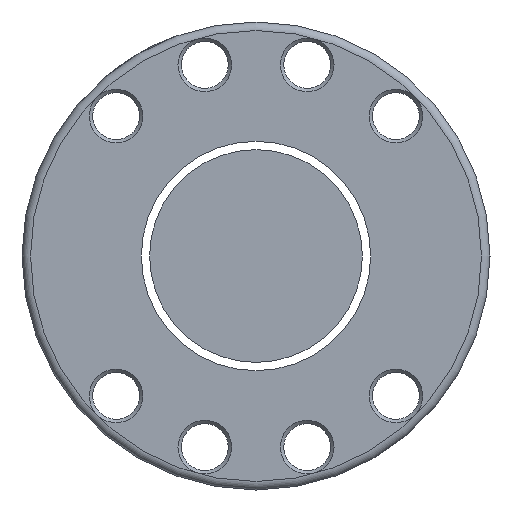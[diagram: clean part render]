
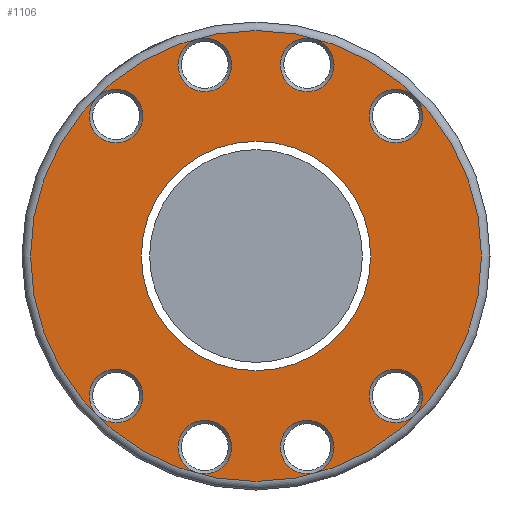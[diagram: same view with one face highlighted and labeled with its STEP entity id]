
A CAD part, left-side view. The second image highlights one B-rep face of the part: STEP entity #1106.
In plain terms, the highlighted planar face has unit normal (-1, 0, 0).
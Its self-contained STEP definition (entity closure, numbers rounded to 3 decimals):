
#16 = DIRECTION ( 'NONE',  ( 0., -1., 0. ) ) ;
#95 = AXIS2_PLACEMENT_3D ( 'NONE', #993, #2577, #727 ) ;
#178 = AXIS2_PLACEMENT_3D ( 'NONE', #2312, #297, #1455 ) ;
#190 = AXIS2_PLACEMENT_3D ( 'NONE', #2579, #1859, #568 ) ;
#216 = ORIENTED_EDGE ( 'NONE', *, *, #1748, .T. ) ;
#238 = CIRCLE ( 'NONE', #699, 53. ) ;
#250 = VERTEX_POINT ( 'NONE', #1343 ) ;
#297 = DIRECTION ( 'NONE',  ( 1., 0., 0. ) ) ;
#298 = DIRECTION ( 'NONE',  ( -1., 0., 0. ) ) ;
#311 = FACE_BOUND ( 'NONE', #1068, .T. ) ;
#312 = EDGE_CURVE ( 'NONE', #2460, #2460, #1440, .T. ) ;
#375 = AXIS2_PLACEMENT_3D ( 'NONE', #2419, #1043, #2402 ) ;
#506 = CIRCLE ( 'NONE', #696, 6.3 ) ;
#548 = CIRCLE ( 'NONE', #2208, 6.3 ) ;
#556 = FACE_BOUND ( 'NONE', #2775, .T. ) ;
#567 = ORIENTED_EDGE ( 'NONE', *, *, #773, .T. ) ;
#568 = DIRECTION ( 'NONE',  ( 0., -1., 0. ) ) ;
#572 = CARTESIAN_POINT ( 'NONE',  ( -138., 0., 0. ) ) ;
#601 = CARTESIAN_POINT ( 'NONE',  ( -138., 32.88, -32.88 ) ) ;
#607 = CIRCLE ( 'NONE', #190, 6.3 ) ;
#627 = VERTEX_POINT ( 'NONE', #1994 ) ;
#635 = DIRECTION ( 'NONE',  ( 1., 0., 0. ) ) ;
#643 = VERTEX_POINT ( 'NONE', #1540 ) ;
#657 = EDGE_CURVE ( 'NONE', #2012, #2012, #506, .T. ) ;
#665 = CARTESIAN_POINT ( 'NONE',  ( -138., -32.88, -32.88 ) ) ;
#696 = AXIS2_PLACEMENT_3D ( 'NONE', #601, #635, #1718 ) ;
#699 = AXIS2_PLACEMENT_3D ( 'NONE', #572, #2088, #2595 ) ;
#703 = AXIS2_PLACEMENT_3D ( 'NONE', #665, #2487, #16 ) ;
#716 = ORIENTED_EDGE ( 'NONE', *, *, #1138, .T. ) ;
#727 = DIRECTION ( 'NONE',  ( 0., 1., 0. ) ) ;
#736 = EDGE_LOOP ( 'NONE', ( #2301 ) ) ;
#773 = EDGE_CURVE ( 'NONE', #250, #250, #548, .T. ) ;
#790 = ORIENTED_EDGE ( 'NONE', *, *, #2084, .T. ) ;
#811 = FACE_BOUND ( 'NONE', #2785, .T. ) ;
#847 = CIRCLE ( 'NONE', #2264, 6.3 ) ;
#897 = CARTESIAN_POINT ( 'NONE',  ( -138., 26.58, -32.88 ) ) ;
#910 = VERTEX_POINT ( 'NONE', #1524 ) ;
#913 = DIRECTION ( 'NONE',  ( 0., -1., 0. ) ) ;
#935 = CIRCLE ( 'NONE', #375, 6.3 ) ;
#979 = CIRCLE ( 'NONE', #2623, 6.3 ) ;
#987 = EDGE_LOOP ( 'NONE', ( #716 ) ) ;
#993 = CARTESIAN_POINT ( 'NONE',  ( -138., 0., 0. ) ) ;
#1026 = CARTESIAN_POINT ( 'NONE',  ( -138., -12.035, -44.916 ) ) ;
#1043 = DIRECTION ( 'NONE',  ( 1., 0., 0. ) ) ;
#1068 = EDGE_LOOP ( 'NONE', ( #2224 ) ) ;
#1086 = CARTESIAN_POINT ( 'NONE',  ( -138., -39.18, 32.88 ) ) ;
#1106 = ADVANCED_FACE ( 'NONE', ( #2583, #2826, #1674, #811, #1232, #556, #2132, #1456, #2326, #311 ), #1704, .T. ) ;
#1138 = EDGE_CURVE ( 'NONE', #1790, #1790, #238, .T. ) ;
#1232 = FACE_BOUND ( 'NONE', #1307, .T. ) ;
#1261 = ORIENTED_EDGE ( 'NONE', *, *, #657, .T. ) ;
#1306 = CARTESIAN_POINT ( 'NONE',  ( -138., 5.735, 44.916 ) ) ;
#1307 = EDGE_LOOP ( 'NONE', ( #1706 ) ) ;
#1343 = CARTESIAN_POINT ( 'NONE',  ( -138., -18.335, -44.916 ) ) ;
#1430 = CARTESIAN_POINT ( 'NONE',  ( -138., -53., 0. ) ) ;
#1440 = CIRCLE ( 'NONE', #178, 6.3 ) ;
#1455 = DIRECTION ( 'NONE',  ( 0., -1., 0. ) ) ;
#1456 = FACE_BOUND ( 'NONE', #1759, .T. ) ;
#1524 = CARTESIAN_POINT ( 'NONE',  ( -138., 5.735, -44.916 ) ) ;
#1540 = CARTESIAN_POINT ( 'NONE',  ( -138., 26.95, 0. ) ) ;
#1558 = VERTEX_POINT ( 'NONE', #1086 ) ;
#1562 = DIRECTION ( 'NONE',  ( 1., 0., 0. ) ) ;
#1576 = DIRECTION ( 'NONE',  ( 1., 0., 0. ) ) ;
#1588 = CARTESIAN_POINT ( 'NONE',  ( -138., 12.035, 44.916 ) ) ;
#1604 = EDGE_CURVE ( 'NONE', #627, #627, #607, .T. ) ;
#1620 = EDGE_LOOP ( 'NONE', ( #567 ) ) ;
#1648 = ORIENTED_EDGE ( 'NONE', *, *, #2398, .T. ) ;
#1674 = FACE_BOUND ( 'NONE', #736, .T. ) ;
#1690 = DIRECTION ( 'NONE',  ( 0., -1., 0. ) ) ;
#1704 = PLANE ( 'NONE',  #2341 ) ;
#1706 = ORIENTED_EDGE ( 'NONE', *, *, #312, .T. ) ;
#1718 = DIRECTION ( 'NONE',  ( 0., -1., 0. ) ) ;
#1748 = EDGE_CURVE ( 'NONE', #2901, #2901, #979, .T. ) ;
#1759 = EDGE_LOOP ( 'NONE', ( #1261 ) ) ;
#1790 = VERTEX_POINT ( 'NONE', #1430 ) ;
#1851 = CARTESIAN_POINT ( 'NONE',  ( -138., -18.335, 44.916 ) ) ;
#1859 = DIRECTION ( 'NONE',  ( 1., 0., 0. ) ) ;
#1960 = CARTESIAN_POINT ( 'NONE',  ( -138., -39.18, -32.88 ) ) ;
#1988 = EDGE_LOOP ( 'NONE', ( #1648 ) ) ;
#1994 = CARTESIAN_POINT ( 'NONE',  ( -138., 26.58, 32.88 ) ) ;
#2012 = VERTEX_POINT ( 'NONE', #897 ) ;
#2084 = EDGE_CURVE ( 'NONE', #1558, #1558, #935, .T. ) ;
#2088 = DIRECTION ( 'NONE',  ( -1., 0., 0. ) ) ;
#2108 = CIRCLE ( 'NONE', #703, 6.3 ) ;
#2128 = ORIENTED_EDGE ( 'NONE', *, *, #1604, .T. ) ;
#2132 = FACE_BOUND ( 'NONE', #2310, .T. ) ;
#2147 = DIRECTION ( 'NONE',  ( 0., -1., 0. ) ) ;
#2208 = AXIS2_PLACEMENT_3D ( 'NONE', #1026, #2855, #2147 ) ;
#2224 = ORIENTED_EDGE ( 'NONE', *, *, #2603, .T. ) ;
#2264 = AXIS2_PLACEMENT_3D ( 'NONE', #2706, #1576, #913 ) ;
#2301 = ORIENTED_EDGE ( 'NONE', *, *, #2338, .T. ) ;
#2310 = EDGE_LOOP ( 'NONE', ( #2128 ) ) ;
#2312 = CARTESIAN_POINT ( 'NONE',  ( -138., -12.035, 44.916 ) ) ;
#2326 = FACE_BOUND ( 'NONE', #1988, .T. ) ;
#2338 = EDGE_CURVE ( 'NONE', #2471, #2471, #2108, .T. ) ;
#2341 = AXIS2_PLACEMENT_3D ( 'NONE', #2357, #298, #1690 ) ;
#2357 = CARTESIAN_POINT ( 'NONE',  ( -138., 55., 0. ) ) ;
#2398 = EDGE_CURVE ( 'NONE', #910, #910, #847, .T. ) ;
#2402 = DIRECTION ( 'NONE',  ( 0., -1., 0. ) ) ;
#2419 = CARTESIAN_POINT ( 'NONE',  ( -138., -32.88, 32.88 ) ) ;
#2460 = VERTEX_POINT ( 'NONE', #1851 ) ;
#2471 = VERTEX_POINT ( 'NONE', #1960 ) ;
#2486 = DIRECTION ( 'NONE',  ( 0., -1., 0. ) ) ;
#2487 = DIRECTION ( 'NONE',  ( 1., 0., 0. ) ) ;
#2577 = DIRECTION ( 'NONE',  ( 1., 0., 0. ) ) ;
#2579 = CARTESIAN_POINT ( 'NONE',  ( -138., 32.88, 32.88 ) ) ;
#2583 = FACE_OUTER_BOUND ( 'NONE', #987, .T. ) ;
#2595 = DIRECTION ( 'NONE',  ( 0., -1., 0. ) ) ;
#2603 = EDGE_CURVE ( 'NONE', #643, #643, #2872, .T. ) ;
#2623 = AXIS2_PLACEMENT_3D ( 'NONE', #1588, #1562, #2486 ) ;
#2706 = CARTESIAN_POINT ( 'NONE',  ( -138., 12.035, -44.916 ) ) ;
#2775 = EDGE_LOOP ( 'NONE', ( #216 ) ) ;
#2785 = EDGE_LOOP ( 'NONE', ( #790 ) ) ;
#2826 = FACE_BOUND ( 'NONE', #1620, .T. ) ;
#2855 = DIRECTION ( 'NONE',  ( 1., 0., 0. ) ) ;
#2872 = CIRCLE ( 'NONE', #95, 26.95 ) ;
#2901 = VERTEX_POINT ( 'NONE', #1306 ) ;
